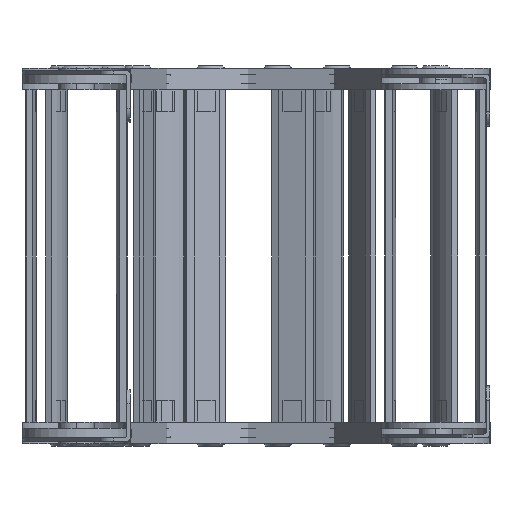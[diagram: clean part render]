
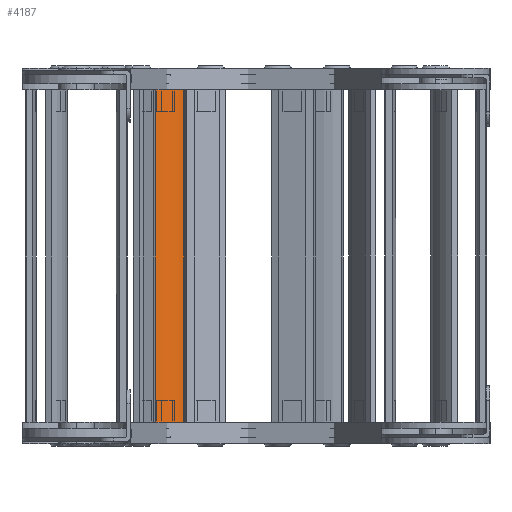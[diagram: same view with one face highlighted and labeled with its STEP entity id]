
A CAD part, left-side view. The second image highlights one B-rep face of the part: STEP entity #4187.
In plain terms, the highlighted cylindrical face has radius 52 mm (diameter 104 mm), a partial arc.
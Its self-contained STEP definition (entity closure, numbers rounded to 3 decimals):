
#4001=CARTESIAN_POINT('',(38.75,85.,0.));
#4002=DIRECTION('',(0.,0.,-1.));
#4003=DIRECTION('',(0.346,-0.938,0.));
#4004=AXIS2_PLACEMENT_3D('',#4001,#4002,#4003);
#4044=DIRECTION('',(0.,0.,-1.));
#4045=VECTOR('',#4044,275.7);
#4046=CARTESIAN_POINT('',(56.75,36.215,0.));
#4047=LINE('',#4046,#4045);
#4051=DIRECTION('',(0.,0.,1.));
#4052=VECTOR('',#4051,275.7);
#4053=CARTESIAN_POINT('',(20.75,36.215,-275.7));
#4054=LINE('',#4053,#4052);
#4079=CARTESIAN_POINT('',(38.75,85.,-275.7));
#4080=DIRECTION('',(0.,0.,1.));
#4081=DIRECTION('',(-0.346,-0.938,0.));
#4082=AXIS2_PLACEMENT_3D('',#4079,#4080,#4081);
#4130=CARTESIAN_POINT('',(56.75,36.215,-275.7));
#4132=VERTEX_POINT('',#4130);
#4133=CARTESIAN_POINT('',(20.75,36.215,-275.7));
#4134=VERTEX_POINT('',#4133);
#4141=CARTESIAN_POINT('',(56.75,36.215,0.));
#4142=VERTEX_POINT('',#4141);
#4145=CARTESIAN_POINT('',(20.75,36.215,0.));
#4146=VERTEX_POINT('',#4145);
#4173=CARTESIAN_POINT('',(38.75,85.,-200.7));
#4174=DIRECTION('',(0.,0.,1.));
#4175=DIRECTION('',(1.,0.,0.));
#4176=AXIS2_PLACEMENT_3D('',#4173,#4174,#4175);
#4177=CYLINDRICAL_SURFACE('',#4176,52.);
#4179=ORIENTED_EDGE('',*,*,#4178,.T.);
#4181=ORIENTED_EDGE('',*,*,#4180,.F.);
#4183=ORIENTED_EDGE('',*,*,#4182,.T.);
#4184=ORIENTED_EDGE('',*,*,#4158,.F.);
#4185=EDGE_LOOP('',(#4179,#4181,#4183,#4184));
#4186=FACE_OUTER_BOUND('',#4185,.F.);
#4187=ADVANCED_FACE('',(#4186),#4177,.T.);
#4005=CIRCLE('',#4004,52.);
#4083=CIRCLE('',#4082,52.);
#4158=EDGE_CURVE('',#4142,#4146,#4005,.T.);
#4178=EDGE_CURVE('',#4142,#4132,#4047,.T.);
#4180=EDGE_CURVE('',#4134,#4132,#4083,.T.);
#4182=EDGE_CURVE('',#4134,#4146,#4054,.T.);
